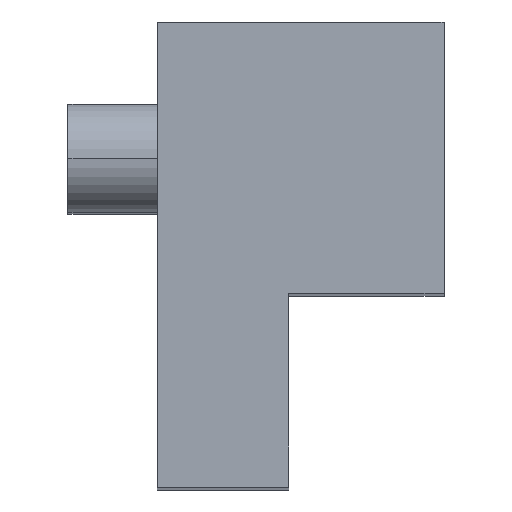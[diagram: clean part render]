
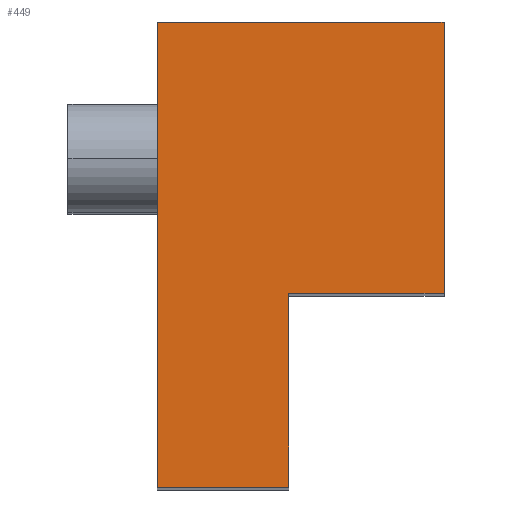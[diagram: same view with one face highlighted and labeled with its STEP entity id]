
A CAD part, top view. The second image highlights one B-rep face of the part: STEP entity #449.
In plain terms, the highlighted planar face has unit normal (0, 0, 1).
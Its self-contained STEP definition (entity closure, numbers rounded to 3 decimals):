
#35 = ORIENTED_EDGE ( 'NONE', *, *, #310, .T. ) ;
#38 = DIRECTION ( 'NONE',  ( 0., 0., 1. ) ) ;
#46 = PLANE ( 'NONE',  #306 ) ;
#69 = EDGE_CURVE ( 'NONE', #572, #354, #247, .T. ) ;
#80 = ORIENTED_EDGE ( 'NONE', *, *, #484, .T. ) ;
#83 = ORIENTED_EDGE ( 'NONE', *, *, #203, .T. ) ;
#92 = EDGE_CURVE ( 'NONE', #329, #151, #529, .T. ) ;
#103 = VECTOR ( 'NONE', #550, 1000. ) ;
#128 = CARTESIAN_POINT ( 'NONE',  ( 3.4, -4., 20.9 ) ) ;
#137 = VECTOR ( 'NONE', #545, 1000. ) ;
#151 = VERTEX_POINT ( 'NONE', #500 ) ;
#161 = CARTESIAN_POINT ( 'NONE',  ( 7.4, 1., 20.9 ) ) ;
#166 = ORIENTED_EDGE ( 'NONE', *, *, #69, .T. ) ;
#177 = CARTESIAN_POINT ( 'NONE',  ( 7.4, 8., 20.9 ) ) ;
#181 = VECTOR ( 'NONE', #579, 1000. ) ;
#203 = EDGE_CURVE ( 'NONE', #362, #254, #583, .T. ) ;
#214 = LINE ( 'NONE', #538, #103 ) ;
#225 = DIRECTION ( 'NONE',  ( 1., 0., 0. ) ) ;
#247 = LINE ( 'NONE', #479, #181 ) ;
#251 = CARTESIAN_POINT ( 'NONE',  ( 3.4, -4., 20.9 ) ) ;
#254 = VERTEX_POINT ( 'NONE', #456 ) ;
#290 = DIRECTION ( 'NONE',  ( -1., 0., 0. ) ) ;
#299 = ORIENTED_EDGE ( 'NONE', *, *, #92, .T. ) ;
#300 = DIRECTION ( 'NONE',  ( 0., -1., 0. ) ) ;
#306 = AXIS2_PLACEMENT_3D ( 'NONE', #565, #38, #225 ) ;
#310 = EDGE_CURVE ( 'NONE', #151, #572, #214, .T. ) ;
#329 = VERTEX_POINT ( 'NONE', #128 ) ;
#331 = VECTOR ( 'NONE', #300, 1000. ) ;
#354 = VERTEX_POINT ( 'NONE', #177 ) ;
#358 = VECTOR ( 'NONE', #432, 1000. ) ;
#362 = VERTEX_POINT ( 'NONE', #420 ) ;
#409 = CARTESIAN_POINT ( 'NONE',  ( 0., 8., 20.9 ) ) ;
#420 = CARTESIAN_POINT ( 'NONE',  ( 0., 8., 20.9 ) ) ;
#432 = DIRECTION ( 'NONE',  ( 0., 1., 0. ) ) ;
#444 = EDGE_LOOP ( 'NONE', ( #83, #516, #299, #35, #166, #80 ) ) ;
#448 = CARTESIAN_POINT ( 'NONE',  ( 0., -4., 20.9 ) ) ;
#449 = ADVANCED_FACE ( 'NONE', ( #514 ), #46, .T. ) ;
#456 = CARTESIAN_POINT ( 'NONE',  ( 0., -4., 20.9 ) ) ;
#479 = CARTESIAN_POINT ( 'NONE',  ( 7.4, 1., 20.9 ) ) ;
#484 = EDGE_CURVE ( 'NONE', #354, #362, #569, .T. ) ;
#492 = LINE ( 'NONE', #448, #137 ) ;
#500 = CARTESIAN_POINT ( 'NONE',  ( 3.4, 1., 20.9 ) ) ;
#502 = EDGE_CURVE ( 'NONE', #254, #329, #492, .T. ) ;
#514 = FACE_OUTER_BOUND ( 'NONE', #444, .T. ) ;
#516 = ORIENTED_EDGE ( 'NONE', *, *, #502, .T. ) ;
#524 = CARTESIAN_POINT ( 'NONE',  ( 7.4, 8., 20.9 ) ) ;
#529 = LINE ( 'NONE', #251, #358 ) ;
#538 = CARTESIAN_POINT ( 'NONE',  ( 3.4, 1., 20.9 ) ) ;
#544 = VECTOR ( 'NONE', #290, 1000. ) ;
#545 = DIRECTION ( 'NONE',  ( 1., 0., 0. ) ) ;
#550 = DIRECTION ( 'NONE',  ( 1., 0., 0. ) ) ;
#565 = CARTESIAN_POINT ( 'NONE',  ( 0., 0., 20.9 ) ) ;
#569 = LINE ( 'NONE', #524, #544 ) ;
#572 = VERTEX_POINT ( 'NONE', #161 ) ;
#579 = DIRECTION ( 'NONE',  ( 0., 1., 0. ) ) ;
#583 = LINE ( 'NONE', #409, #331 ) ;
